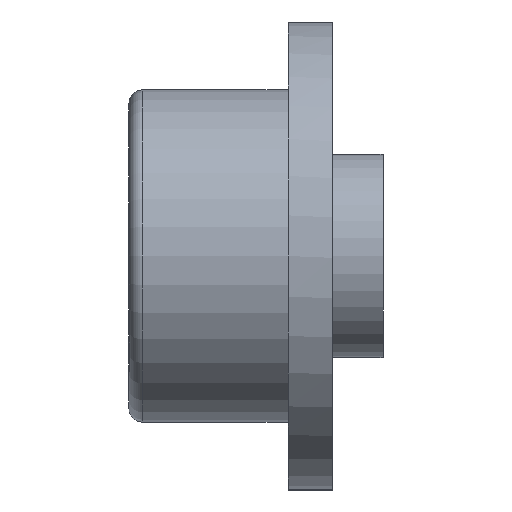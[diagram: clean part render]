
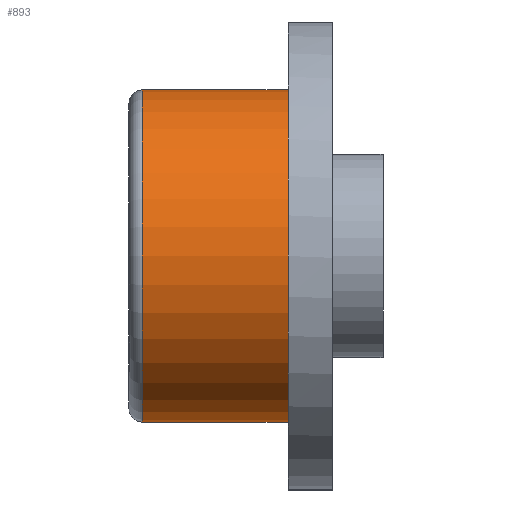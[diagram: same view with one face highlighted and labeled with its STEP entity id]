
A CAD part, left-side view. The second image highlights one B-rep face of the part: STEP entity #893.
In plain terms, the highlighted cylindrical face has radius 2.45 mm (diameter 4.9 mm), a full revolution.
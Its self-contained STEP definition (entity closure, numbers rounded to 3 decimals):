
#33=CYLINDRICAL_SURFACE('',#1037,2.45);
#70=LINE('',#1612,#119);
#119=VECTOR('',#1305,2.45);
#169=FACE_OUTER_BOUND('',#231,.T.);
#231=EDGE_LOOP('',(#713,#714,#715,#716,#717));
#308=CIRCLE('',#999,2.45);
#309=CIRCLE('',#1000,2.45);
#340=CIRCLE('',#1038,2.45);
#398=VERTEX_POINT('',#1538);
#399=VERTEX_POINT('',#1540);
#428=VERTEX_POINT('',#1610);
#501=EDGE_CURVE('',#399,#398,#308,.T.);
#502=EDGE_CURVE('',#398,#399,#309,.T.);
#535=EDGE_CURVE('',#428,#428,#340,.T.);
#536=EDGE_CURVE('',#428,#399,#70,.T.);
#713=ORIENTED_EDGE('',*,*,#535,.T.);
#714=ORIENTED_EDGE('',*,*,#536,.T.);
#715=ORIENTED_EDGE('',*,*,#501,.T.);
#716=ORIENTED_EDGE('',*,*,#502,.T.);
#717=ORIENTED_EDGE('',*,*,#536,.F.);
#893=ADVANCED_FACE('',(#169),#33,.T.);
#999=AXIS2_PLACEMENT_3D('',#1541,#1223,#1224);
#1000=AXIS2_PLACEMENT_3D('',#1542,#1225,#1226);
#1037=AXIS2_PLACEMENT_3D('',#1609,#1301,#1302);
#1038=AXIS2_PLACEMENT_3D('',#1611,#1303,#1304);
#1223=DIRECTION('center_axis',(0.,-1.,0.));
#1224=DIRECTION('ref_axis',(0.,0.,1.));
#1225=DIRECTION('center_axis',(0.,-1.,0.));
#1226=DIRECTION('ref_axis',(0.,0.,1.));
#1301=DIRECTION('center_axis',(0.,-1.,0.));
#1302=DIRECTION('ref_axis',(0.,0.,-1.));
#1303=DIRECTION('center_axis',(0.,1.,0.));
#1304=DIRECTION('ref_axis',(0.,0.,1.));
#1305=DIRECTION('',(0.,1.,0.));
#1538=CARTESIAN_POINT('',(0.,2.146,-2.45));
#1540=CARTESIAN_POINT('',(0.,2.146,2.45));
#1541=CARTESIAN_POINT('Origin',(0.,2.146,0.));
#1542=CARTESIAN_POINT('Origin',(0.,2.146,0.));
#1609=CARTESIAN_POINT('Origin',(0.,2.4,0.));
#1610=CARTESIAN_POINT('',(0.,0.,2.45));
#1611=CARTESIAN_POINT('Origin',(0.,0.,0.));
#1612=CARTESIAN_POINT('',(0.,2.4,2.45));
